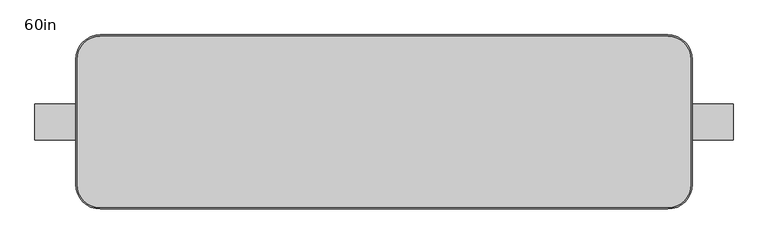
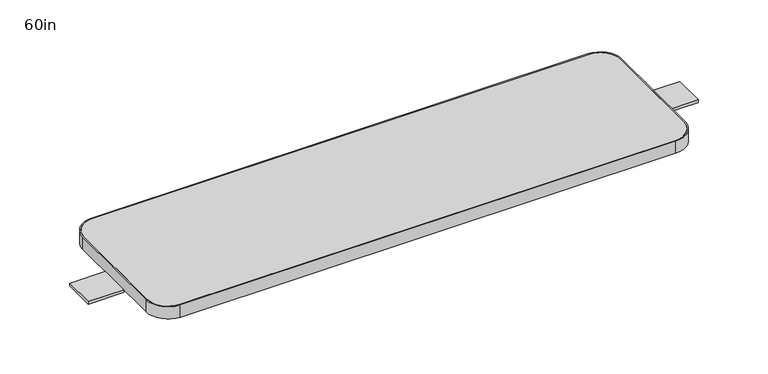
"""IFC4 building model written with IfcOpenShell, lengths in millimetres: furniture geometry, Steelcase - Answer Solution - Transaction Worksurface - Square Trim - 3mm Edge : 60in."""

from ifc_helpers import new_model, si_unit, point, frame, frame_2d, origin, place, context, project, spatial, polyline, circle_curve, trimmed, segment, composite_curve, outline, extrude, source, transform, mapped, element, save


def furniture_60in_400902f2(model_context):
    return source(origin(), model_context, "Body", "SweptSolid", [
        extrude(outline(polyline([(88.9003876, 0.0), (88.9003876, -79.3748062), (0.0, -79.3748062), (0.0, 0.0), (88.9003876, 0.0)])), frame((0.0, 0.0, 1044.7273647), z_axis=(0.0, 0.0, 1.0), x_axis=(1.0, 0.0, 0.0)), (0.0, 0.0, 1.0), 7.340613),
        extrude(outline(polyline([(1524.0, 0.0), (1524.0, -79.3748062), (1435.0996124, -79.3748062), (1435.0996124, 0.0), (1524.0, 0.0)])), frame((0.0, 0.0, 1044.7273647), z_axis=(0.0, 0.0, 1.0), x_axis=(1.0, 0.0, 0.0)), (0.0, 0.0, 1.0), 7.340613),
        extrude(outline(composite_curve([segment(trimmed(circle_curve(frame_2d((1381.1248062, 96.8375)), 50.8), [point((1381.1248062, 147.6375))], [point((1431.9248062, 96.8375))], False, "CARTESIAN"), True, "CONTINUOUS"), segment(polyline([(1431.9248062, 96.8375), (1431.9248062, -176.2123062)]), True, "CONTINUOUS"), segment(trimmed(circle_curve(frame_2d((1381.1248062, -176.2123062)), 50.8), [point((1431.9248062, -176.2123062))], [point((1381.1248062, -227.0123062))], False, "CARTESIAN"), True, "CONTINUOUS"), segment(polyline([(1381.1248062, -227.0123062), (142.8751938, -227.0123062)]), True, "CONTINUOUS"), segment(trimmed(circle_curve(frame_2d((142.8751938, -176.2123062)), 50.8), [point((142.8751938, -227.0123062))], [point((92.0751938, -176.2123062))], False, "CARTESIAN"), True, "CONTINUOUS"), segment(polyline([(92.0751938, -176.2123062), (92.0751938, 96.8375)]), True, "CONTINUOUS"), segment(trimmed(circle_curve(frame_2d((142.8751938, 96.8375)), 50.8), [point((92.0751938, 96.8375))], [point((142.8751938, 147.6375))], False, "CARTESIAN"), True, "CONTINUOUS"), segment(polyline([(142.8751938, 147.6375), (1381.1248062, 147.6375)]), True, "CONTINUOUS")], self_intersect=False)), frame((0.0, 0.0, 1052.0679777), z_axis=(0.0, 0.0, 1.0), x_axis=(1.0, 0.0, 0.0)), (0.0, 0.0, 1.0), 31.7500242),
        extrude(outline(composite_curve([segment(polyline([(1381.1248062, -230.1871124), (142.8751938, -230.1871124)]), True, "CONTINUOUS"), segment(trimmed(circle_curve(frame_2d((142.8751938, -176.2123062)), 53.9748062), [point((142.8751938, -230.1871124))], [point((88.9003876, -176.2123062))], False, "CARTESIAN"), True, "CONTINUOUS"), segment(polyline([(88.9003876, -176.2123062), (88.9003876, 96.8375)]), True, "CONTINUOUS"), segment(trimmed(circle_curve(frame_2d((142.8751938, 96.8375)), 53.9748062), [point((88.9003876, 96.8375))], [point((142.8751938, 150.8123062))], False, "CARTESIAN"), True, "CONTINUOUS"), segment(polyline([(142.8751938, 150.8123062), (1381.1248062, 150.8123062)]), True, "CONTINUOUS"), segment(trimmed(circle_curve(frame_2d((1381.1248062, 96.8375)), 53.9748062), [point((1381.1248062, 150.8123062))], [point((1435.0996124, 96.8375))], False, "CARTESIAN"), True, "CONTINUOUS"), segment(polyline([(1435.0996124, 96.8375), (1435.0996124, -176.2123062)]), True, "CONTINUOUS"), segment(trimmed(circle_curve(frame_2d((1381.1248062, -176.2123062)), 53.9748062), [point((1435.0996124, -176.2123062))], [point((1381.1248062, -230.1871124))], False, "CARTESIAN"), True, "CONTINUOUS")], self_intersect=False), holes=[composite_curve([segment(trimmed(circle_curve(frame_2d((142.8751938, 96.8375)), 50.8), [point((142.8751938, 147.6375))], [point((92.0751938, 96.8375))], True, "CARTESIAN"), True, "CONTINUOUS"), segment(polyline([(92.0751938, 96.8375), (92.0751938, -176.2123062)]), True, "CONTINUOUS"), segment(trimmed(circle_curve(frame_2d((142.8751938, -176.2123062)), 50.8), [point((92.0751938, -176.2123062))], [point((142.8751938, -227.0123062))], True, "CARTESIAN"), True, "CONTINUOUS"), segment(polyline([(142.8751938, -227.0123062), (1381.1248062, -227.0123062)]), True, "CONTINUOUS"), segment(trimmed(circle_curve(frame_2d((1381.1248062, -176.2123062)), 50.8), [point((1381.1248062, -227.0123062))], [point((1431.9248062, -176.2123062))], True, "CARTESIAN"), True, "CONTINUOUS"), segment(polyline([(1431.9248062, -176.2123062), (1431.9248062, 96.8375)]), True, "CONTINUOUS"), segment(trimmed(circle_curve(frame_2d((1381.1248062, 96.8375)), 50.8), [point((1431.9248062, 96.8375))], [point((1381.1248062, 147.6375))], True, "CARTESIAN"), True, "CONTINUOUS"), segment(polyline([(1381.1248062, 147.6375), (142.8751938, 147.6375)]), True, "CONTINUOUS")], self_intersect=False)]), frame((0.0, 0.0, 1052.0679777), z_axis=(0.0, 0.0, 1.0), x_axis=(1.0, 0.0, 0.0)), (0.0, 0.0, 1.0), 31.7500242),
    ])


if __name__ == "__main__":
    model = new_model("IFC4")
    model_context = context("Model", 3, world=origin())
    ifc_project = project(units=[si_unit("LENGTHUNIT", "METRE", prefix="MILLI")], contexts=[model_context])
    site = spatial("IfcSite", under=ifc_project)
    building = spatial("IfcBuilding", under=site)
    placement = place(None, origin())
    furniture_60in_shape = furniture_60in_400902f2(model_context)
    element("IfcFurniture", 1, ObjectType="Steelcase - Answer Solution - Transaction Worksurface - Square Trim - 3mm Edge : 60in", at=placement, inside=building, context=model_context, shape_type="MappedRepresentation", body=[
        mapped(furniture_60in_shape, transform((0.0, 0.0, 0.0), x_axis=(1.0, 0.0, 0.0), y_axis=(0.0, 1.0, 0.0), z_axis=(0.0, 0.0, 1.0))),
    ])
    save(model, "model.ifc")
